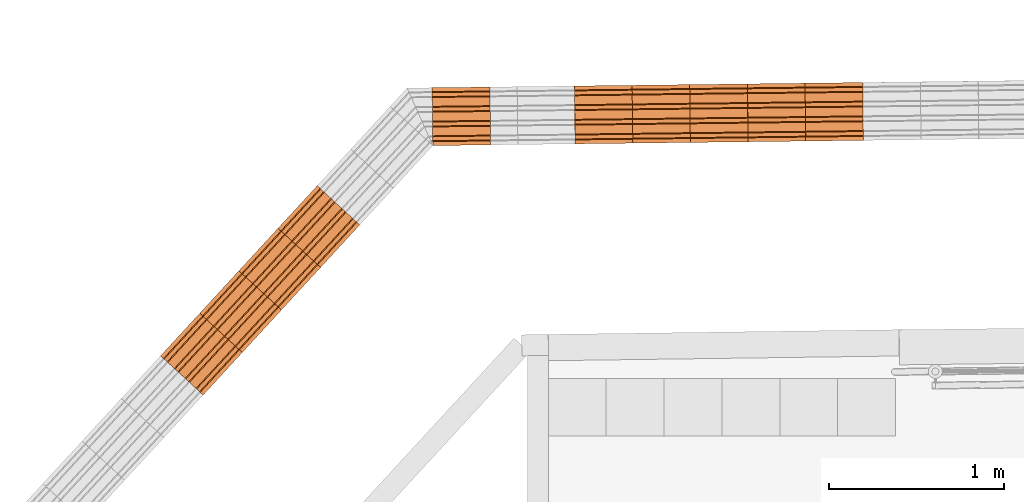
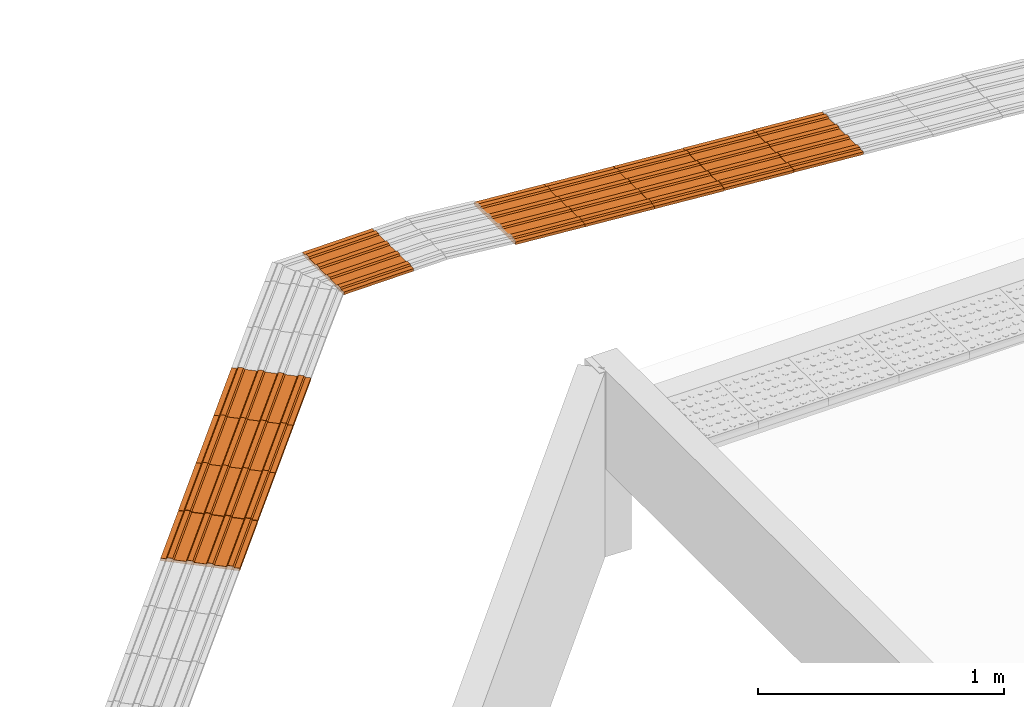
# One storey, part 178 of 237: 10 proxies.
"""IFC2X3 building model written with IfcOpenShell, lengths in millimetres."""

from ifc_helpers import new_model, entity, si_unit, converted_unit, derived_unit, money_unit, direction, frame, origin_with_axes, place, context, subcontext, project, spatial, open_shell, surface_model, source, transform, mapped, type_object, element, save


model = new_model("IFC2X3")

# Units and contexts
model_context = context("Model", 3, precision=0.01, world=origin_with_axes(), true_north=direction((0.0, 1.0)))
body_context = subcontext(model_context, "Body", "Model", "MODEL_VIEW")
ifc_project = project(units=[si_unit("LENGTHUNIT", "METRE", prefix="MILLI"), si_unit("AREAUNIT", "SQUARE_METRE"), si_unit("VOLUMEUNIT", "CUBIC_METRE"), converted_unit("PLANEANGLEUNIT", "DEGREE", entity("IfcPlaneAngleMeasure", 0.0174532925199), si_unit("PLANEANGLEUNIT", "RADIAN"), dimensions=[0, 0, 0, 0, 0, 0, 0]), money_unit("USD"), converted_unit("TIMEUNIT", "Year", entity("IfcTimeMeasure", 31556926.0), si_unit("TIMEUNIT", "SECOND"), dimensions=[0, 0, 1, 0, 0, 0, 0]), si_unit("MASSUNIT", "GRAM", prefix="KILO"), si_unit("THERMODYNAMICTEMPERATUREUNIT", "DEGREE_CELSIUS"), si_unit("LUMINOUSINTENSITYUNIT", "LUMEN"), si_unit("ENERGYUNIT", "JOULE", prefix="MEGA"), derived_unit("THERMALCONDUCTANCEUNIT", [(si_unit("POWERUNIT", "WATT"), 1), (si_unit("LENGTHUNIT", "METRE"), -1), (si_unit("THERMODYNAMICTEMPERATUREUNIT", "KELVIN"), -1)]), derived_unit("SPECIFICHEATCAPACITYUNIT", [(si_unit("ENERGYUNIT", "JOULE"), 1), (si_unit("MASSUNIT", "GRAM", prefix="KILO"), -1), (si_unit("THERMODYNAMICTEMPERATUREUNIT", "KELVIN"), -1)]), derived_unit("MASSDENSITYUNIT", [(si_unit("MASSUNIT", "GRAM", prefix="KILO"), 1), (si_unit("VOLUMEUNIT", "CUBIC_METRE"), -1)])], contexts=[model_context])

# Site, building, storey
site_placement = place(None, origin_with_axes())
site = spatial("IfcSite", under=ifc_project, at=site_placement, Name="Local", CompositionType="ELEMENT")
building_placement = place(site_placement, origin_with_axes())
building = spatial("IfcBuilding", under=site, at=building_placement, Name="Construção", CompositionType="ELEMENT")
storey_placement = place(building_placement, origin_with_axes())
storey = spatial("IfcBuildingStorey", under=building, at=storey_placement, Name="Pavimento Térreo", CompositionType="ELEMENT", Elevation=0.0)

# Proxies
building_element_proxy_type = type_object("IfcBuildingElementProxyType", Name="Piso Direcional 27", PredefinedType="NOTDEFINED")
shared_shape_1 = source(origin_with_axes(), body_context, "Body", "SurfaceModel", [
    surface_model("IfcShellBasedSurfaceModel", [(0.126538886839, -47.258225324, 4.02653266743), (329.963703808, -47.258225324, -6.33901782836), (330.173108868, -41.665004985, 0.32435924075), (0.33594394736, -41.665004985, 10.6899097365)], [open_shell([[[0, 1, 2, 3]]])]),
    surface_model("IfcShellBasedSurfaceModel", [(329.544893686, -153.529411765, -19.6657719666), (329.544893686, 176.470588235, -19.6657719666), (329.963703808, 176.470588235, -6.33901782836), (329.963703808, 154.097706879, -6.33901782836), (330.173108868, 148.50448654, 0.32435924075), (330.173108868, 126.131605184, 0.32435924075), (329.963703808, 120.538384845, -6.33901782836), (329.963703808, 70.1994017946, -6.33901782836), (330.173108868, 64.6061814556, 0.32435924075), (330.173108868, 42.2333000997, 0.32435924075), (329.963703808, 36.6400797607, -6.33901782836), (329.963703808, -13.6989032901, -6.33901782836), (330.173108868, -19.2921236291, 0.32435924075), (330.173108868, -41.665004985, 0.32435924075), (329.963703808, -47.258225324, -6.33901782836), (329.963703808, -97.5972083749, -6.33901782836), (330.173108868, -103.190428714, 0.32435924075), (330.173108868, -125.56331007, 0.32435924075), (329.963703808, -131.156530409, -6.33901782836), (329.963703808, -153.529411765, -6.33901782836)], [open_shell([[[0, 1, 2, 3, 4, 5, 6, 7, 8, 9, 10, 11, 12, 13, 14, 15, 16, 17, 18, 19]]])]),
    surface_model("IfcShellBasedSurfaceModel", [(0.33594394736, -19.2921236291, 10.6899097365), (330.173108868, -19.2921236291, 0.32435924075), (329.963703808, -13.6989032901, -6.33901782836), (0.126538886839, -13.6989032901, 4.02653266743)], [open_shell([[[0, 1, 2, 3]]])]),
    surface_model("IfcShellBasedSurfaceModel", [(0.33594394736, -103.190428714, 10.6899097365), (330.173108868, -103.190428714, 0.32435924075), (329.963703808, -97.5972083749, -6.33901782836), (0.126538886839, -97.5972083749, 4.02653266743)], [open_shell([[[0, 1, 2, 3]]])]),
    surface_model("IfcShellBasedSurfaceModel", [(0.33594394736, 64.6061814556, 10.6899097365), (330.173108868, 64.6061814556, 0.32435924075), (329.963703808, 70.1994017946, -6.33901782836), (0.126538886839, 70.1994017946, 4.02653266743)], [open_shell([[[0, 1, 2, 3]]])]),
    surface_model("IfcShellBasedSurfaceModel", [(0.126538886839, 36.6400797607, 4.02653266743), (329.963703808, 36.6400797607, -6.33901782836), (330.173108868, 42.2333000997, 0.32435924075), (0.33594394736, 42.2333000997, 10.6899097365)], [open_shell([[[0, 1, 2, 3]]])]),
    surface_model("IfcShellBasedSurfaceModel", [(0.126538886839, -131.156530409, 4.02653266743), (329.963703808, -131.156530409, -6.33901782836), (330.173108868, -125.56331007, 0.32435924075), (0.33594394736, -125.56331007, 10.6899097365)], [open_shell([[[0, 1, 2, 3]]])]),
    surface_model("IfcShellBasedSurfaceModel", [(0.126538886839, 176.470588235, 4.02653266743), (0.126538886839, 154.097706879, 4.02653266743), (329.963703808, 154.097706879, -6.33901782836), (329.963703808, 176.470588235, -6.33901782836)], [open_shell([[[0, 1, 2, 3]]])]),
    surface_model("IfcShellBasedSurfaceModel", [(0.126538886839, 120.538384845, 4.02653266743), (329.963703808, 120.538384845, -6.33901782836), (330.173108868, 126.131605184, 0.32435924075), (0.33594394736, 126.131605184, 10.6899097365)], [open_shell([[[0, 1, 2, 3]]])]),
    surface_model("IfcShellBasedSurfaceModel", [(0.33594394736, 148.50448654, 10.6899097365), (330.173108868, 148.50448654, 0.32435924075), (329.963703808, 154.097706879, -6.33901782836), (0.126538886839, 154.097706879, 4.02653266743)], [open_shell([[[0, 1, 2, 3]]])]),
    surface_model("IfcShellBasedSurfaceModel", [(0.126538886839, 36.6400797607, 4.02653266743), (0.126538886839, -13.6989032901, 4.02653266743), (329.963703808, -13.6989032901, -6.33901782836), (329.963703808, 36.6400797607, -6.33901782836)], [open_shell([[[0, 1, 2, 3]]])]),
    surface_model("IfcShellBasedSurfaceModel", [(0.126538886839, 120.538384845, 4.02653266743), (0.126538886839, 70.1994017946, 4.02653266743), (329.963703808, 70.1994017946, -6.33901782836), (329.963703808, 120.538384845, -6.33901782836)], [open_shell([[[0, 1, 2, 3]]])]),
    surface_model("IfcShellBasedSurfaceModel", [(0.33594394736, 148.50448654, 10.6899097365), (0.33594394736, 126.131605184, 10.6899097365), (330.173108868, 126.131605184, 0.32435924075), (330.173108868, 148.50448654, 0.32435924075)], [open_shell([[[0, 1, 2, 3]]])]),
    surface_model("IfcShellBasedSurfaceModel", [(0.126538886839, 120.538384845, 4.02653266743), (0.33594394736, 126.131605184, 10.6899097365), (0.33594394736, 148.50448654, 10.6899097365), (0.126538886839, 154.097706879, 4.02653266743), (0.126538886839, 176.470588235, 4.02653266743), (-0.292271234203, 176.470588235, -9.30022147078), (-0.292271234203, -153.529411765, -9.30022147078), (0.126538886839, -153.529411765, 4.02653266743), (0.126538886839, -131.156530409, 4.02653266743), (0.33594394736, -125.56331007, 10.6899097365), (0.33594394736, -103.190428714, 10.6899097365), (0.126538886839, -97.5972083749, 4.02653266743), (0.126538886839, -47.258225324, 4.02653266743), (0.33594394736, -41.665004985, 10.6899097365), (0.33594394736, -19.2921236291, 10.6899097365), (0.126538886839, -13.6989032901, 4.02653266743), (0.126538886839, 36.6400797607, 4.02653266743), (0.33594394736, 42.2333000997, 10.6899097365), (0.33594394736, 64.6061814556, 10.6899097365), (0.126538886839, 70.1994017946, 4.02653266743)], [open_shell([[[0, 1, 2, 3, 4, 5, 6, 7, 8, 9, 10, 11, 12, 13, 14, 15, 16, 17, 18, 19]]])]),
    surface_model("IfcShellBasedSurfaceModel", [(330.173108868, -41.665004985, 0.32435924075), (330.173108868, -19.2921236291, 0.32435924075), (0.33594394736, -19.2921236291, 10.6899097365), (0.33594394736, -41.665004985, 10.6899097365)], [open_shell([[[0, 1, 2, 3]]])]),
    surface_model("IfcShellBasedSurfaceModel", [(0.126538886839, -47.258225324, 4.02653266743), (0.126538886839, -97.5972083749, 4.02653266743), (329.963703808, -97.5972083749, -6.33901782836), (329.963703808, -47.258225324, -6.33901782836)], [open_shell([[[0, 1, 2, 3]]])]),
    surface_model("IfcShellBasedSurfaceModel", [(330.173108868, 42.2333000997, 0.32435924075), (330.173108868, 64.6061814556, 0.32435924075), (0.33594394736, 64.6061814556, 10.6899097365), (0.33594394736, 42.2333000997, 10.6899097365)], [open_shell([[[0, 1, 2, 3]]])]),
    surface_model("IfcShellBasedSurfaceModel", [(330.173108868, -125.56331007, 0.32435924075), (330.173108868, -103.190428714, 0.32435924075), (0.33594394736, -103.190428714, 10.6899097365), (0.33594394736, -125.56331007, 10.6899097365)], [open_shell([[[0, 1, 2, 3]]])]),
    surface_model("IfcShellBasedSurfaceModel", [(329.544893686, 176.470588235, -19.6657719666), (-0.292271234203, 176.470588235, -9.30022147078), (0.126538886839, 176.470588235, 4.02653266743), (329.963703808, 176.470588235, -6.33901782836)], [open_shell([[[0, 1, 2, 3]]])]),
    surface_model("IfcShellBasedSurfaceModel", [(329.544893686, -153.529411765, -19.6657719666), (-0.292271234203, -153.529411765, -9.30022147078), (-0.292271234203, 176.470588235, -9.30022147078), (329.544893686, 176.470588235, -19.6657719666)], [open_shell([[[0, 1, 2, 3]]])]),
    surface_model("IfcShellBasedSurfaceModel", [(329.963703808, -153.529411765, -6.33901782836), (329.963703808, -131.156530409, -6.33901782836), (0.126538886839, -131.156530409, 4.02653266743), (0.126538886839, -153.529411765, 4.02653266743)], [open_shell([[[0, 1, 2, 3]]])]),
    surface_model("IfcShellBasedSurfaceModel", [(-0.292271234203, -153.529411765, -9.30022147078), (329.544893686, -153.529411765, -19.6657719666), (329.963703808, -153.529411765, -6.33901782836), (0.126538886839, -153.529411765, 4.02653266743)], [open_shell([[[0, 1, 2, 3]]])]),
])
for number, where, z_axis, x_axis, name in (
    (1, (47857.3338389, 36126.786677, -1368.09583934), (0.0, 0.0, 1.0), (-0.677327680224, -0.735681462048, 0.0), "Objeto-0055"),
    (2, (47634.0461687, 35884.2621141, -1378.68680073), (0.0, 0.0, 1.0), (-0.677327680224, -0.735681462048, 0.0), "Objeto-0055"),
    (3, (47410.7584986, 35641.7375511, -1389.27776211), (0.0, 0.0, 1.0), (-0.677327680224, -0.735681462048, 0.0), "Objeto-0055"),
    (4, (47187.5136321, 35399.2594795, -1401.87962246), (0.0, 0.0, 1.0), (-0.677327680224, -0.735681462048, 0.0), "Objeto-0055"),
):
    element("IfcBuildingElementProxy", number, at=place(storey_placement, frame(where, z_axis=z_axis, x_axis=x_axis)), inside=storey, type_object=building_element_proxy_type, Name=name, context=body_context, shape_type="MappedRepresentation", body=[
        mapped(shared_shape_1, transform((0.0, 0.0, 0.0))),
    ])
shared_shape_2 = source(origin_with_axes(), body_context, "Body", "SurfaceModel", [
    surface_model("IfcShellBasedSurfaceModel", [(-0.351108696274, -47.258225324, 4.01319076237), (328.393141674, -47.258225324, 32.7745858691), (327.812103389, -41.665004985, 39.4158838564), (-0.932146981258, -41.665004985, 10.6544887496)], [open_shell([[[0, 1, 2, 3]]])]),
    surface_model("IfcShellBasedSurfaceModel", [(329.555218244, -153.529411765, 19.4919898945), (329.555218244, 176.470588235, 19.4919898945), (328.393141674, 176.470588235, 32.7745858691), (328.393141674, 154.097706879, 32.7745858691), (327.812103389, 148.50448654, 39.4158838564), (327.812103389, 126.131605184, 39.4158838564), (328.393141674, 120.538384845, 32.7745858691), (328.393141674, 70.1994017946, 32.7745858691), (327.812103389, 64.6061814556, 39.4158838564), (327.812103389, 42.2333000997, 39.4158838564), (328.393141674, 36.6400797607, 32.7745858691), (328.393141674, -13.6989032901, 32.7745858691), (327.812103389, -19.2921236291, 39.4158838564), (327.812103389, -41.665004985, 39.4158838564), (328.393141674, -47.258225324, 32.7745858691), (328.393141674, -97.5972083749, 32.7745858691), (327.812103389, -103.190428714, 39.4158838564), (327.812103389, -125.56331007, 39.4158838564), (328.393141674, -131.156530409, 32.7745858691), (328.393141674, -153.529411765, 32.7745858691)], [open_shell([[[0, 1, 2, 3, 4, 5, 6, 7, 8, 9, 10, 11, 12, 13, 14, 15, 16, 17, 18, 19]]])]),
    surface_model("IfcShellBasedSurfaceModel", [(-0.932146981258, -19.2921236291, 10.6544887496), (327.812103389, -19.2921236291, 39.4158838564), (328.393141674, -13.6989032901, 32.7745858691), (-0.351108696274, -13.6989032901, 4.01319076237)], [open_shell([[[0, 1, 2, 3]]])]),
    surface_model("IfcShellBasedSurfaceModel", [(-0.932146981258, -103.190428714, 10.6544887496), (327.812103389, -103.190428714, 39.4158838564), (328.393141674, -97.5972083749, 32.7745858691), (-0.351108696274, -97.5972083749, 4.01319076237)], [open_shell([[[0, 1, 2, 3]]])]),
    surface_model("IfcShellBasedSurfaceModel", [(-0.932146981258, 64.6061814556, 10.6544887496), (327.812103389, 64.6061814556, 39.4158838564), (328.393141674, 70.1994017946, 32.7745858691), (-0.351108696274, 70.1994017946, 4.01319076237)], [open_shell([[[0, 1, 2, 3]]])]),
    surface_model("IfcShellBasedSurfaceModel", [(-0.351108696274, 36.6400797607, 4.01319076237), (328.393141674, 36.6400797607, 32.7745858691), (327.812103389, 42.2333000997, 39.4158838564), (-0.932146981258, 42.2333000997, 10.6544887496)], [open_shell([[[0, 1, 2, 3]]])]),
    surface_model("IfcShellBasedSurfaceModel", [(-0.351108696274, -131.156530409, 4.01319076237), (328.393141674, -131.156530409, 32.7745858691), (327.812103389, -125.56331007, 39.4158838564), (-0.932146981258, -125.56331007, 10.6544887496)], [open_shell([[[0, 1, 2, 3]]])]),
    surface_model("IfcShellBasedSurfaceModel", [(-0.351108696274, 176.470588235, 4.01319076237), (-0.351108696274, 154.097706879, 4.01319076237), (328.393141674, 154.097706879, 32.7745858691), (328.393141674, 176.470588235, 32.7745858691)], [open_shell([[[0, 1, 2, 3]]])]),
    surface_model("IfcShellBasedSurfaceModel", [(-0.351108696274, 120.538384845, 4.01319076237), (328.393141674, 120.538384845, 32.7745858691), (327.812103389, 126.131605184, 39.4158838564), (-0.932146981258, 126.131605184, 10.6544887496)], [open_shell([[[0, 1, 2, 3]]])]),
    surface_model("IfcShellBasedSurfaceModel", [(-0.932146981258, 148.50448654, 10.6544887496), (327.812103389, 148.50448654, 39.4158838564), (328.393141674, 154.097706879, 32.7745858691), (-0.351108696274, 154.097706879, 4.01319076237)], [open_shell([[[0, 1, 2, 3]]])]),
    surface_model("IfcShellBasedSurfaceModel", [(-0.351108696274, 36.6400797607, 4.01319076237), (-0.351108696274, -13.6989032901, 4.01319076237), (328.393141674, -13.6989032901, 32.7745858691), (328.393141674, 36.6400797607, 32.7745858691)], [open_shell([[[0, 1, 2, 3]]])]),
    surface_model("IfcShellBasedSurfaceModel", [(-0.351108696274, 120.538384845, 4.01319076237), (-0.351108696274, 70.1994017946, 4.01319076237), (328.393141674, 70.1994017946, 32.7745858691), (328.393141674, 120.538384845, 32.7745858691)], [open_shell([[[0, 1, 2, 3]]])]),
    surface_model("IfcShellBasedSurfaceModel", [(-0.932146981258, 148.50448654, 10.6544887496), (-0.932146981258, 126.131605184, 10.6544887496), (327.812103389, 126.131605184, 39.4158838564), (327.812103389, 148.50448654, 39.4158838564)], [open_shell([[[0, 1, 2, 3]]])]),
    surface_model("IfcShellBasedSurfaceModel", [(-0.351108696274, 120.538384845, 4.01319076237), (-0.932146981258, 126.131605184, 10.6544887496), (-0.932146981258, 148.50448654, 10.6544887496), (-0.351108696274, 154.097706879, 4.01319076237), (-0.351108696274, 176.470588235, 4.01319076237), (0.810967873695, 176.470588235, -9.26940521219), (0.810967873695, -153.529411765, -9.26940521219), (-0.351108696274, -153.529411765, 4.01319076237), (-0.351108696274, -131.156530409, 4.01319076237), (-0.932146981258, -125.56331007, 10.6544887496), (-0.932146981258, -103.190428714, 10.6544887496), (-0.351108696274, -97.5972083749, 4.01319076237), (-0.351108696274, -47.258225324, 4.01319076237), (-0.932146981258, -41.665004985, 10.6544887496), (-0.932146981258, -19.2921236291, 10.6544887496), (-0.351108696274, -13.6989032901, 4.01319076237), (-0.351108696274, 36.6400797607, 4.01319076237), (-0.932146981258, 42.2333000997, 10.6544887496), (-0.932146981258, 64.6061814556, 10.6544887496), (-0.351108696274, 70.1994017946, 4.01319076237)], [open_shell([[[0, 1, 2, 3, 4, 5, 6, 7, 8, 9, 10, 11, 12, 13, 14, 15, 16, 17, 18, 19]]])]),
    surface_model("IfcShellBasedSurfaceModel", [(327.812103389, -41.665004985, 39.4158838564), (327.812103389, -19.2921236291, 39.4158838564), (-0.932146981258, -19.2921236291, 10.6544887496), (-0.932146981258, -41.665004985, 10.6544887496)], [open_shell([[[0, 1, 2, 3]]])]),
    surface_model("IfcShellBasedSurfaceModel", [(-0.351108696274, -47.258225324, 4.01319076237), (-0.351108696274, -97.5972083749, 4.01319076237), (328.393141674, -97.5972083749, 32.7745858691), (328.393141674, -47.258225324, 32.7745858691)], [open_shell([[[0, 1, 2, 3]]])]),
    surface_model("IfcShellBasedSurfaceModel", [(327.812103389, 42.2333000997, 39.4158838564), (327.812103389, 64.6061814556, 39.4158838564), (-0.932146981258, 64.6061814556, 10.6544887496), (-0.932146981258, 42.2333000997, 10.6544887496)], [open_shell([[[0, 1, 2, 3]]])]),
    surface_model("IfcShellBasedSurfaceModel", [(327.812103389, -125.56331007, 39.4158838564), (327.812103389, -103.190428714, 39.4158838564), (-0.932146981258, -103.190428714, 10.6544887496), (-0.932146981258, -125.56331007, 10.6544887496)], [open_shell([[[0, 1, 2, 3]]])]),
    surface_model("IfcShellBasedSurfaceModel", [(329.555218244, 176.470588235, 19.4919898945), (0.810967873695, 176.470588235, -9.26940521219), (-0.351108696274, 176.470588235, 4.01319076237), (328.393141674, 176.470588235, 32.7745858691)], [open_shell([[[0, 1, 2, 3]]])]),
    surface_model("IfcShellBasedSurfaceModel", [(329.555218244, -153.529411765, 19.4919898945), (0.810967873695, -153.529411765, -9.26940521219), (0.810967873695, 176.470588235, -9.26940521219), (329.555218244, 176.470588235, 19.4919898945)], [open_shell([[[0, 1, 2, 3]]])]),
    surface_model("IfcShellBasedSurfaceModel", [(328.393141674, -153.529411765, 32.7745858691), (328.393141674, -131.156530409, 32.7745858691), (-0.351108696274, -131.156530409, 4.01319076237), (-0.351108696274, -153.529411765, 4.01319076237)], [open_shell([[[0, 1, 2, 3]]])]),
    surface_model("IfcShellBasedSurfaceModel", [(0.810967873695, -153.529411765, -9.26940521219), (329.555218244, -153.529411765, 19.4919898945), (328.393141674, -153.529411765, 32.7745858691), (-0.351108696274, -153.529411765, 4.01319076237)], [open_shell([[[0, 1, 2, 3]]])]),
])
for number, where, z_axis, x_axis, name in (
    (5, (50527.7471072, 36661.5841388, -1517.67985449), (0.0, 0.0, 1.0), (-0.999926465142, -0.012127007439, 0.0), "Objeto-0055"),
    (6, (50856.3890048, 36665.5694574, -1544.66064254), (0.0, 0.0, 1.0), (-0.999926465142, -0.012127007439, 0.0), "Objeto-0055"),
    (7, (50198.5599087, 36657.5933549, -1490.5333351), (0.0, 0.0, 1.0), (-0.999926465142, -0.012127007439, 0.0), "Objeto-0055"),
    (8, (49869.7851802, 36653.6086364, -1462.28725349), (0.0, 0.0, 1.0), (-0.999926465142, -0.012127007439, 0.0), "Objeto-0055"),
    (9, (49541.2885353, 36649.626288, -1433.25794138), (0.0, 0.0, 1.0), (-0.999926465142, -0.012127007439, 0.0), "Objeto-0055"),
):
    element("IfcBuildingElementProxy", number, at=place(storey_placement, frame(where, z_axis=z_axis, x_axis=x_axis)), inside=storey, type_object=building_element_proxy_type, Name=name, context=body_context, shape_type="MappedRepresentation", body=[
        mapped(shared_shape_2, transform((0.0, 0.0, 0.0))),
    ])
shared_shape_3 = source(origin_with_axes(), body_context, "Body", "SurfaceModel", [
    surface_model("IfcShellBasedSurfaceModel", [(0.0, -47.258225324, 4.02852049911), (330.0, -47.258225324, 4.02852049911), (330.0, -41.665004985, 10.6951871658), (0.0, -41.665004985, 10.6951871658)], [open_shell([[[0, 1, 2, 3]]])]),
    surface_model("IfcShellBasedSurfaceModel", [(330.0, -153.529411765, -9.30481283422), (330.0, 176.470588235, -9.30481283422), (330.0, 176.470588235, 4.02852049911), (330.0, 154.097706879, 4.02852049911), (330.0, 148.50448654, 10.6951871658), (330.0, 126.131605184, 10.6951871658), (330.0, 120.538384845, 4.02852049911), (330.0, 70.1994017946, 4.02852049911), (330.0, 64.6061814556, 10.6951871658), (330.0, 42.2333000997, 10.6951871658), (330.0, 36.6400797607, 4.02852049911), (330.0, -13.6989032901, 4.02852049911), (330.0, -19.2921236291, 10.6951871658), (330.0, -41.665004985, 10.6951871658), (330.0, -47.258225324, 4.02852049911), (330.0, -97.5972083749, 4.02852049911), (330.0, -103.190428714, 10.6951871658), (330.0, -125.56331007, 10.6951871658), (330.0, -131.156530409, 4.02852049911), (330.0, -153.529411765, 4.02852049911)], [open_shell([[[0, 1, 2, 3, 4, 5, 6, 7, 8, 9, 10, 11, 12, 13, 14, 15, 16, 17, 18, 19]]])]),
    surface_model("IfcShellBasedSurfaceModel", [(0.0, -19.2921236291, 10.6951871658), (330.0, -19.2921236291, 10.6951871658), (330.0, -13.6989032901, 4.02852049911), (0.0, -13.6989032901, 4.02852049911)], [open_shell([[[0, 1, 2, 3]]])]),
    surface_model("IfcShellBasedSurfaceModel", [(0.0, -103.190428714, 10.6951871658), (330.0, -103.190428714, 10.6951871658), (330.0, -97.5972083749, 4.02852049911), (0.0, -97.5972083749, 4.02852049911)], [open_shell([[[0, 1, 2, 3]]])]),
    surface_model("IfcShellBasedSurfaceModel", [(0.0, 64.6061814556, 10.6951871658), (330.0, 64.6061814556, 10.6951871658), (330.0, 70.1994017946, 4.02852049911), (0.0, 70.1994017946, 4.02852049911)], [open_shell([[[0, 1, 2, 3]]])]),
    surface_model("IfcShellBasedSurfaceModel", [(0.0, 36.6400797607, 4.02852049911), (330.0, 36.6400797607, 4.02852049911), (330.0, 42.2333000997, 10.6951871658), (0.0, 42.2333000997, 10.6951871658)], [open_shell([[[0, 1, 2, 3]]])]),
    surface_model("IfcShellBasedSurfaceModel", [(0.0, -131.156530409, 4.02852049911), (330.0, -131.156530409, 4.02852049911), (330.0, -125.56331007, 10.6951871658), (0.0, -125.56331007, 10.6951871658)], [open_shell([[[0, 1, 2, 3]]])]),
    surface_model("IfcShellBasedSurfaceModel", [(0.0, 176.470588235, 4.02852049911), (0.0, 154.097706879, 4.02852049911), (330.0, 154.097706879, 4.02852049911), (330.0, 176.470588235, 4.02852049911)], [open_shell([[[0, 1, 2, 3]]])]),
    surface_model("IfcShellBasedSurfaceModel", [(0.0, 120.538384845, 4.02852049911), (330.0, 120.538384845, 4.02852049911), (330.0, 126.131605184, 10.6951871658), (0.0, 126.131605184, 10.6951871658)], [open_shell([[[0, 1, 2, 3]]])]),
    surface_model("IfcShellBasedSurfaceModel", [(0.0, 148.50448654, 10.6951871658), (330.0, 148.50448654, 10.6951871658), (330.0, 154.097706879, 4.02852049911), (0.0, 154.097706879, 4.02852049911)], [open_shell([[[0, 1, 2, 3]]])]),
    surface_model("IfcShellBasedSurfaceModel", [(0.0, 36.6400797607, 4.02852049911), (0.0, -13.6989032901, 4.02852049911), (330.0, -13.6989032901, 4.02852049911), (330.0, 36.6400797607, 4.02852049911)], [open_shell([[[0, 1, 2, 3]]])]),
    surface_model("IfcShellBasedSurfaceModel", [(0.0, 120.538384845, 4.02852049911), (0.0, 70.1994017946, 4.02852049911), (330.0, 70.1994017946, 4.02852049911), (330.0, 120.538384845, 4.02852049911)], [open_shell([[[0, 1, 2, 3]]])]),
    surface_model("IfcShellBasedSurfaceModel", [(0.0, 148.50448654, 10.6951871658), (0.0, 126.131605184, 10.6951871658), (330.0, 126.131605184, 10.6951871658), (330.0, 148.50448654, 10.6951871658)], [open_shell([[[0, 1, 2, 3]]])]),
    surface_model("IfcShellBasedSurfaceModel", [(0.0, 120.538384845, 4.02852049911), (0.0, 126.131605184, 10.6951871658), (0.0, 148.50448654, 10.6951871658), (0.0, 154.097706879, 4.02852049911), (0.0, 176.470588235, 4.02852049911), (0.0, 176.470588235, -9.30481283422), (0.0, -153.529411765, -9.30481283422), (0.0, -153.529411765, 4.02852049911), (0.0, -131.156530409, 4.02852049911), (0.0, -125.56331007, 10.6951871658), (0.0, -103.190428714, 10.6951871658), (0.0, -97.5972083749, 4.02852049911), (0.0, -47.258225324, 4.02852049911), (0.0, -41.665004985, 10.6951871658), (0.0, -19.2921236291, 10.6951871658), (0.0, -13.6989032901, 4.02852049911), (0.0, 36.6400797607, 4.02852049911), (0.0, 42.2333000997, 10.6951871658), (0.0, 64.6061814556, 10.6951871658), (0.0, 70.1994017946, 4.02852049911)], [open_shell([[[0, 1, 2, 3, 4, 5, 6, 7, 8, 9, 10, 11, 12, 13, 14, 15, 16, 17, 18, 19]]])]),
    surface_model("IfcShellBasedSurfaceModel", [(330.0, -41.665004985, 10.6951871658), (330.0, -19.2921236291, 10.6951871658), (0.0, -19.2921236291, 10.6951871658), (0.0, -41.665004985, 10.6951871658)], [open_shell([[[0, 1, 2, 3]]])]),
    surface_model("IfcShellBasedSurfaceModel", [(0.0, -47.258225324, 4.02852049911), (0.0, -97.5972083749, 4.02852049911), (330.0, -97.5972083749, 4.02852049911), (330.0, -47.258225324, 4.02852049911)], [open_shell([[[0, 1, 2, 3]]])]),
    surface_model("IfcShellBasedSurfaceModel", [(330.0, 42.2333000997, 10.6951871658), (330.0, 64.6061814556, 10.6951871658), (0.0, 64.6061814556, 10.6951871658), (0.0, 42.2333000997, 10.6951871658)], [open_shell([[[0, 1, 2, 3]]])]),
    surface_model("IfcShellBasedSurfaceModel", [(330.0, -125.56331007, 10.6951871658), (330.0, -103.190428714, 10.6951871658), (0.0, -103.190428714, 10.6951871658), (0.0, -125.56331007, 10.6951871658)], [open_shell([[[0, 1, 2, 3]]])]),
    surface_model("IfcShellBasedSurfaceModel", [(330.0, 176.470588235, -9.30481283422), (0.0, 176.470588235, -9.30481283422), (0.0, 176.470588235, 4.02852049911), (330.0, 176.470588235, 4.02852049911)], [open_shell([[[0, 1, 2, 3]]])]),
    surface_model("IfcShellBasedSurfaceModel", [(330.0, -153.529411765, -9.30481283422), (0.0, -153.529411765, -9.30481283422), (0.0, 176.470588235, -9.30481283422), (330.0, 176.470588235, -9.30481283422)], [open_shell([[[0, 1, 2, 3]]])]),
    surface_model("IfcShellBasedSurfaceModel", [(330.0, -153.529411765, 4.02852049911), (330.0, -131.156530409, 4.02852049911), (0.0, -131.156530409, 4.02852049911), (0.0, -153.529411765, 4.02852049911)], [open_shell([[[0, 1, 2, 3]]])]),
    surface_model("IfcShellBasedSurfaceModel", [(0.0, -153.529411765, -9.30481283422), (330.0, -153.529411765, -9.30481283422), (330.0, -153.529411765, 4.02852049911), (0.0, -153.529411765, 4.02852049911)], [open_shell([[[0, 1, 2, 3]]])]),
])
proxy_placement = place(storey_placement, frame((48731.2320113, 36639.8141382, -1363.27878215), z_axis=(0.0, 0.0, 1.0), x_axis=(-0.999926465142, -0.012127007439, 0.0)))
element("IfcBuildingElementProxy", 10, at=proxy_placement, inside=storey, type_object=building_element_proxy_type, Name="Objeto-0055", context=body_context, shape_type="MappedRepresentation", body=[
    mapped(shared_shape_3, transform((0.0, 0.0, 0.0))),
])

save(model, "model.ifc")
